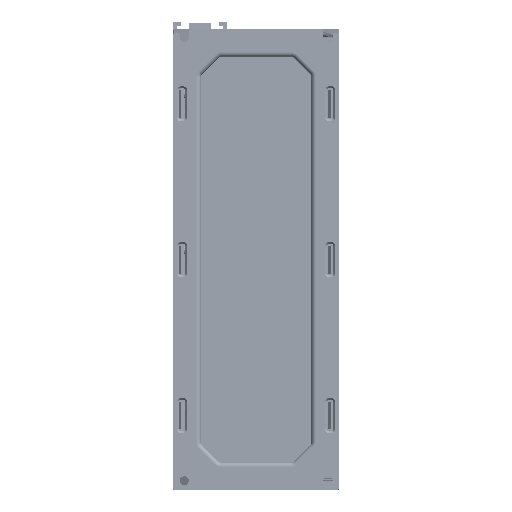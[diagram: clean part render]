
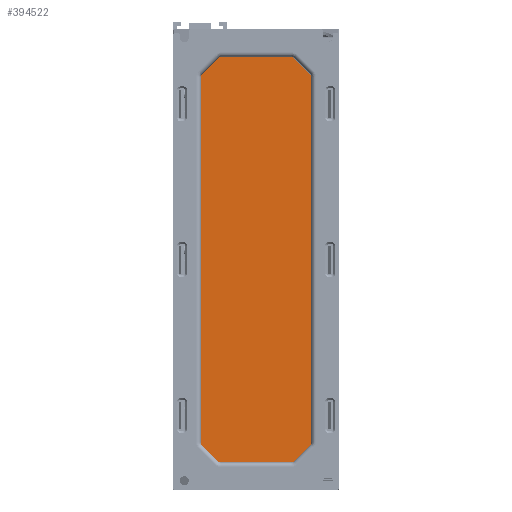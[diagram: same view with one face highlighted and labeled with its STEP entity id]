
A CAD part, front view. The second image highlights one B-rep face of the part: STEP entity #394522.
In plain terms, the highlighted planar face has unit normal (0, -1, 0).
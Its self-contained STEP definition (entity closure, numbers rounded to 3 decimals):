
#292817=CARTESIAN_POINT('',(19.172,2.5,-108.));
#292818=DIRECTION('',(0.,1.,0.));
#292819=DIRECTION('',(0.707,0.,-0.707));
#292820=AXIS2_PLACEMENT_3D('',#292817,#292818,#292819);
#292822=CARTESIAN_POINT('',(-19.172,2.5,-108.));
#292823=DIRECTION('',(0.,1.,0.));
#292824=DIRECTION('',(0.,0.,-1.));
#292825=AXIS2_PLACEMENT_3D('',#292822,#292823,#292824);
#292827=DIRECTION('',(-0.707,0.,0.707));
#292828=VECTOR('',#292827,12.485);
#292829=CARTESIAN_POINT('',(-20.586,2.5,-109.414));
#292830=LINE('',#292829,#292828);
#292831=CARTESIAN_POINT('',(-28.,2.5,-99.172));
#292832=DIRECTION('',(0.,1.,0.));
#292833=DIRECTION('',(-0.707,0.,-0.707));
#292834=AXIS2_PLACEMENT_3D('',#292831,#292832,#292833);
#292836=CARTESIAN_POINT('',(-28.,2.5,99.172));
#292837=DIRECTION('',(0.,1.,0.));
#292838=DIRECTION('',(-1.,0.,0.));
#292839=AXIS2_PLACEMENT_3D('',#292836,#292837,#292838);
#292841=DIRECTION('',(0.707,0.,0.707));
#292842=VECTOR('',#292841,12.485);
#292843=CARTESIAN_POINT('',(-29.414,2.5,100.586));
#292844=LINE('',#292843,#292842);
#292845=CARTESIAN_POINT('',(-19.172,2.5,108.));
#292846=DIRECTION('',(0.,1.,0.));
#292847=DIRECTION('',(-0.707,0.,0.707));
#292848=AXIS2_PLACEMENT_3D('',#292845,#292846,#292847);
#292850=CARTESIAN_POINT('',(19.172,2.5,108.));
#292851=DIRECTION('',(0.,1.,0.));
#292852=DIRECTION('',(0.,0.,1.));
#292853=AXIS2_PLACEMENT_3D('',#292850,#292851,#292852);
#292855=DIRECTION('',(0.707,0.,-0.707));
#292856=VECTOR('',#292855,12.485);
#292857=CARTESIAN_POINT('',(20.586,2.5,109.414));
#292858=LINE('',#292857,#292856);
#292859=CARTESIAN_POINT('',(28.,2.5,99.172));
#292860=DIRECTION('',(0.,1.,0.));
#292861=DIRECTION('',(0.707,0.,0.707));
#292862=AXIS2_PLACEMENT_3D('',#292859,#292860,#292861);
#292864=CARTESIAN_POINT('',(28.,2.5,-99.172));
#292865=DIRECTION('',(0.,1.,0.));
#292866=DIRECTION('',(1.,0.,0.));
#292867=AXIS2_PLACEMENT_3D('',#292864,#292865,#292866);
#292869=DIRECTION('',(-0.707,0.,-0.707));
#292870=VECTOR('',#292869,12.485);
#292871=CARTESIAN_POINT('',(29.414,2.5,-100.586));
#292872=LINE('',#292871,#292870);
#292873=DIRECTION('',(1.,0.,0.));
#292874=VECTOR('',#292873,38.343);
#292875=CARTESIAN_POINT('',(-19.172,2.5,-110.));
#292876=LINE('',#292875,#292874);
#292901=DIRECTION('',(0.,0.,-1.));
#292902=VECTOR('',#292901,198.343);
#292903=CARTESIAN_POINT('',(-30.,2.5,99.172));
#292904=LINE('',#292903,#292902);
#292929=DIRECTION('',(-1.,0.,0.));
#292930=VECTOR('',#292929,38.343);
#292931=CARTESIAN_POINT('',(19.172,2.5,110.));
#292932=LINE('',#292931,#292930);
#292957=DIRECTION('',(0.,0.,1.));
#292958=VECTOR('',#292957,198.343);
#292959=CARTESIAN_POINT('',(30.,2.5,-99.172));
#292960=LINE('',#292959,#292958);
#302453=CARTESIAN_POINT('',(20.586,2.5,-109.414));
#302454=CARTESIAN_POINT('',(19.172,2.5,-110.));
#302455=VERTEX_POINT('',#302453);
#302456=VERTEX_POINT('',#302454);
#302457=CARTESIAN_POINT('',(-19.172,2.5,-110.));
#302458=VERTEX_POINT('',#302457);
#302459=CARTESIAN_POINT('',(-20.586,2.5,-109.414));
#302460=VERTEX_POINT('',#302459);
#302461=CARTESIAN_POINT('',(-29.414,2.5,-100.586));
#302462=VERTEX_POINT('',#302461);
#302463=CARTESIAN_POINT('',(-30.,2.5,-99.172));
#302464=VERTEX_POINT('',#302463);
#302465=CARTESIAN_POINT('',(-30.,2.5,99.172));
#302466=VERTEX_POINT('',#302465);
#302467=CARTESIAN_POINT('',(-29.414,2.5,100.586));
#302468=VERTEX_POINT('',#302467);
#302469=CARTESIAN_POINT('',(-20.586,2.5,109.414));
#302470=VERTEX_POINT('',#302469);
#302471=CARTESIAN_POINT('',(-19.172,2.5,110.));
#302472=VERTEX_POINT('',#302471);
#302473=CARTESIAN_POINT('',(19.172,2.5,110.));
#302474=VERTEX_POINT('',#302473);
#302475=CARTESIAN_POINT('',(20.586,2.5,109.414));
#302476=VERTEX_POINT('',#302475);
#302477=CARTESIAN_POINT('',(29.414,2.5,100.586));
#302478=VERTEX_POINT('',#302477);
#302479=CARTESIAN_POINT('',(30.,2.5,99.172));
#302480=VERTEX_POINT('',#302479);
#302481=CARTESIAN_POINT('',(30.,2.5,-99.172));
#302482=VERTEX_POINT('',#302481);
#302483=CARTESIAN_POINT('',(29.414,2.5,-100.586));
#302484=VERTEX_POINT('',#302483);
#394484=CARTESIAN_POINT('',(0.,2.5,0.));
#394485=DIRECTION('',(0.,-1.,0.));
#394486=DIRECTION('',(0.,0.,-1.));
#394487=AXIS2_PLACEMENT_3D('',#394484,#394485,#394486);
#394488=PLANE('',#394487);
#394489=ORIENTED_EDGE('',*,*,#394474,.T.);
#394491=ORIENTED_EDGE('',*,*,#394490,.F.);
#394493=ORIENTED_EDGE('',*,*,#394492,.T.);
#394495=ORIENTED_EDGE('',*,*,#394494,.T.);
#394497=ORIENTED_EDGE('',*,*,#394496,.T.);
#394499=ORIENTED_EDGE('',*,*,#394498,.F.);
#394501=ORIENTED_EDGE('',*,*,#394500,.T.);
#394503=ORIENTED_EDGE('',*,*,#394502,.T.);
#394505=ORIENTED_EDGE('',*,*,#394504,.T.);
#394507=ORIENTED_EDGE('',*,*,#394506,.F.);
#394509=ORIENTED_EDGE('',*,*,#394508,.T.);
#394511=ORIENTED_EDGE('',*,*,#394510,.T.);
#394513=ORIENTED_EDGE('',*,*,#394512,.T.);
#394515=ORIENTED_EDGE('',*,*,#394514,.F.);
#394517=ORIENTED_EDGE('',*,*,#394516,.T.);
#394519=ORIENTED_EDGE('',*,*,#394518,.T.);
#394520=EDGE_LOOP('',(#394489,#394491,#394493,#394495,#394497,#394499,#394501,
#394503,#394505,#394507,#394509,#394511,#394513,#394515,#394517,#394519));
#394521=FACE_OUTER_BOUND('',#394520,.F.);
#394522=ADVANCED_FACE('',(#394521),#394488,.T.);
#292821=CIRCLE('',#292820,2.);
#292826=CIRCLE('',#292825,2.);
#292835=CIRCLE('',#292834,2.);
#292840=CIRCLE('',#292839,2.);
#292849=CIRCLE('',#292848,2.);
#292854=CIRCLE('',#292853,2.);
#292863=CIRCLE('',#292862,2.);
#292868=CIRCLE('',#292867,2.);
#394474=EDGE_CURVE('',#302455,#302456,#292821,.T.);
#394490=EDGE_CURVE('',#302458,#302456,#292876,.T.);
#394492=EDGE_CURVE('',#302458,#302460,#292826,.T.);
#394494=EDGE_CURVE('',#302460,#302462,#292830,.T.);
#394496=EDGE_CURVE('',#302462,#302464,#292835,.T.);
#394498=EDGE_CURVE('',#302466,#302464,#292904,.T.);
#394500=EDGE_CURVE('',#302466,#302468,#292840,.T.);
#394502=EDGE_CURVE('',#302468,#302470,#292844,.T.);
#394504=EDGE_CURVE('',#302470,#302472,#292849,.T.);
#394506=EDGE_CURVE('',#302474,#302472,#292932,.T.);
#394508=EDGE_CURVE('',#302474,#302476,#292854,.T.);
#394510=EDGE_CURVE('',#302476,#302478,#292858,.T.);
#394512=EDGE_CURVE('',#302478,#302480,#292863,.T.);
#394514=EDGE_CURVE('',#302482,#302480,#292960,.T.);
#394516=EDGE_CURVE('',#302482,#302484,#292868,.T.);
#394518=EDGE_CURVE('',#302484,#302455,#292872,.T.);
